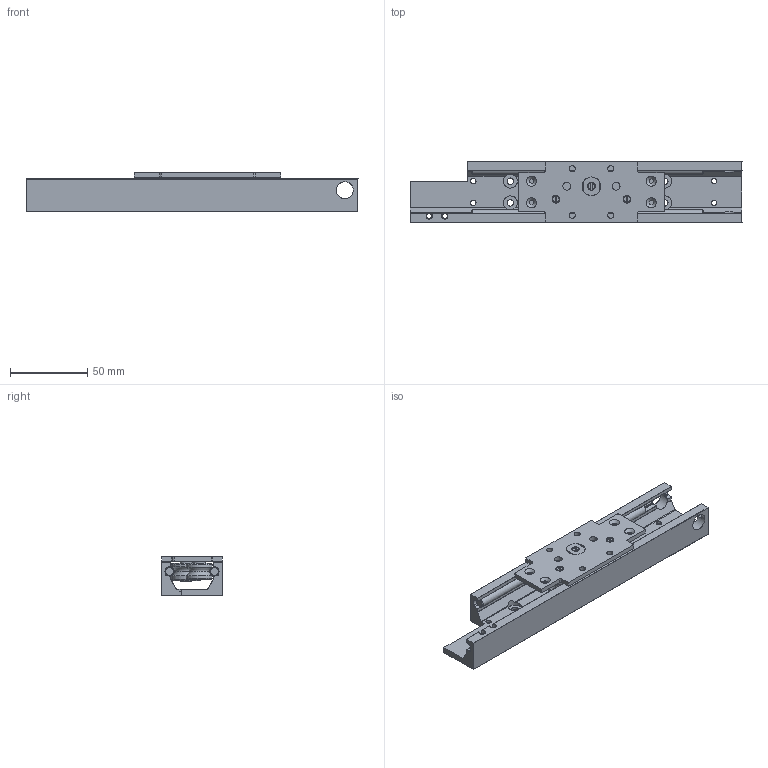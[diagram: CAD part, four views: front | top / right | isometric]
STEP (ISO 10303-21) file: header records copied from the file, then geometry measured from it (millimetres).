
FILE_DESCRIPTION((''),'1');
FILE_NAME('H:/図庫/国内ﾕﾆｯﾄ/ﾌﾙﾗｲﾄﾞ/ホームページ用ＣＡＤ図面/最新/3D/40SW0215S_HP.stp','2016-11-25T00:57:53',(''),(''),'Spatial Interop R21 SP3','Kubotek KeyCreator 2011 V10.0.2 (22737)',' ');
FILE_SCHEMA(('automotive_design'));
Length unit declared in the file: millimetre
Products named in the file (169): Unnamed[1]
Bounding box: 215 x 40 x 25.03 mm (x, y, z)
Surface area: 50787.9 mm2 (no closed solid volume)
Topology: 0 solids, 324 shells, 324 faces, 1485 edges, 1380 vertices
Faces by surface type: cylinder 148, plane 114, cone 37, bspline 19, torus 6
Full cylindrical faces by diameter (mm): 3 x3, 3.1 x4, 3.3 x2, 3.5 x4, 4 x4, 4.2 x6, 5 x5, 6 x4, 6.03 x2, 7 x3, 7.8 x3, 9 x6, 10 x3, 11 x4, 13 x1, 17 x4, 19.9 x2
Entity records: 25713 total; most frequent: CARTESIAN_POINT 6110, DIRECTION 2590, ORIENTED_EDGE 1366, EDGE_CURVE 1366, VERTEX_POINT 1366, AXIS2_PLACEMENT_3D 1090, PRESENTATION_STYLE_ASSIGNMENT 986, COLOUR_RGB 986
